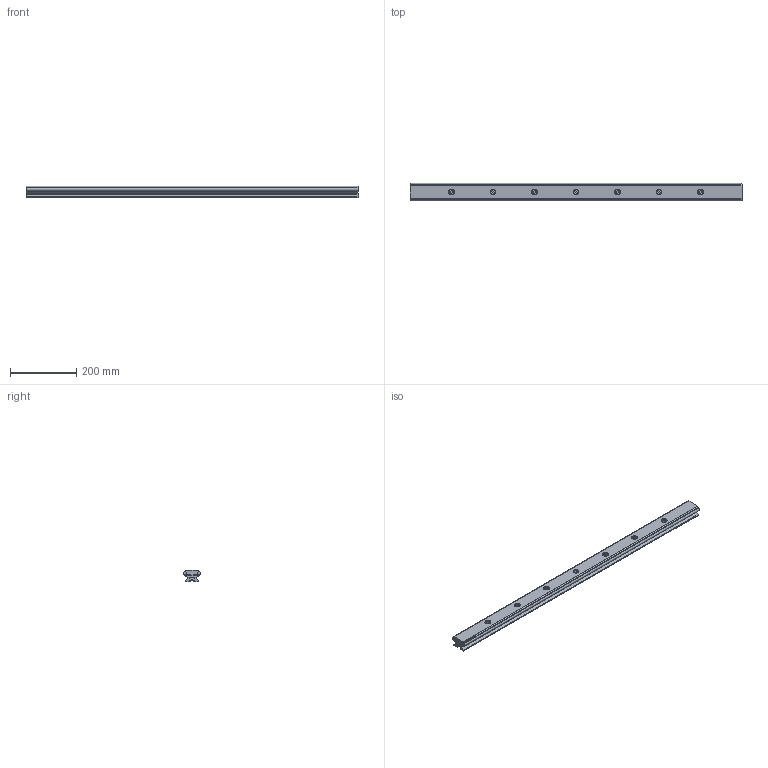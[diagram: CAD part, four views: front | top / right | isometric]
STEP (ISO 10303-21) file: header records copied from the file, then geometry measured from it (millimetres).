
FILE_DESCRIPTION(/* description */ ('Unknown'),/* implementation_level */ '2;1');
FILE_NAME(/* name */ 'HLFS52_1000_Lang_mit_Bohrungen',/* time_stamp */ '2022-01-26T16:28:21+01:00',/* author */ ('Unknown'),/* organization */ ('Unknown'),/* preprocessor_version */ 'ST-DEVELOPER v16.7',/* originating_system */ 'Solid Edge',/* authorisation */ 'Unknown');
FILE_SCHEMA (('AUTOMOTIVE_DESIGN {1 0 10303 214 3 1 1}'));
Length unit declared in the file: millimetre
Products named in the file (6): HLFS52_1000_Lang_mit_Bohrungen; Profil_oben-1000_Lang-mit_Bohrungen_20220121; Welle_Dm_10-1000_lang; Profil_unten-1000_Lang_20210212; din_7984_m_10x20_20220121; DIN_557_Vierkantmutter_M10_20220121
Assembly tree (18 placements, depth 2):
  HLFS52_1000_Lang_mit_Bohrungen
    Profil_oben-1000_Lang-mit_Bohrungen_20220121
    Welle_Dm_10-1000_lang  x2
    Profil_unten-1000_Lang_20210212
    din_7984_m_10x20_20220121  x7
    DIN_557_Vierkantmutter_M10_20220121  x7
Bounding box: 1000 x 51.99 x 34.3 mm (x, y, z)
Volume: 1169000.4 mm3; surface area: 382257.6 mm2
Topology: 18 solids, 18 shells, 339 faces, 825 edges, 543 vertices
Faces by surface type: plane 195, cylinder 123, cone 14, torus 7
Full cylindrical faces by diameter (mm): 8.376 x14, 10 x16, 11 x7, 16 x7, 18 x7
Entity records: 6204 total; most frequent: CARTESIAN_POINT 1221, DIRECTION 990, ORIENTED_EDGE 970, EDGE_CURVE 485, AXIS2_PLACEMENT_3D 356, VERTEX_POINT 335, LINE 278, VECTOR 278
